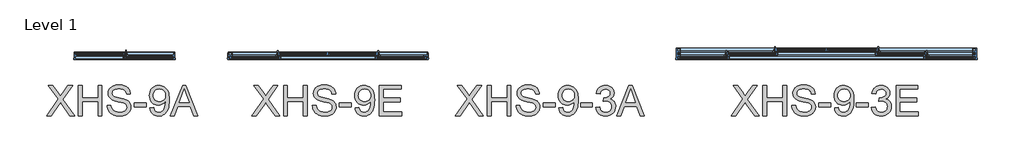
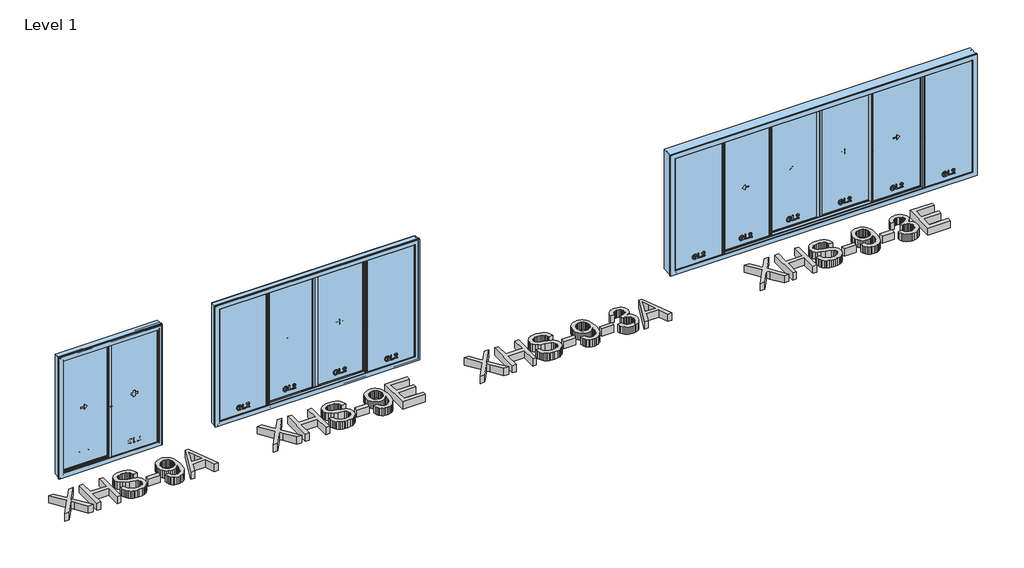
# One storey, incomplete: 4 proxies, 3 windows.
"""IFC4 building model written with IfcOpenShell, lengths in millimetres."""

from ifc_helpers import new_model, si_unit, origin, origin_with_axes, place, context, project, spatial, polyline, outline, extrude, transform, mapped, element, save
from components import window_fc74b0f0, window_bf3bb52b, window_81968e4f, window_7b3e0aa8, window_d65d8cc0

model = new_model("IFC4")

# Units and contexts
model_context = context("Model", 3, world=origin())
ifc_project = project(units=[si_unit("LENGTHUNIT", "METRE", prefix="MILLI")], contexts=[model_context])

# Site, building, storey
site = spatial("IfcSite", under=ifc_project)
building = spatial("IfcBuilding", under=site)
storey = spatial("IfcBuildingStorey", under=building, Name="Level 1", Elevation=0.0)

# Proxies
placement = place(None, origin())
element("IfcBuildingElementProxy", 1, Name="600mm Arial", ObjectType="600mm Arial", at=placement, inside=storey, context=model_context, shape_type="SweptSolid", body=[
    extrude(outline(polyline([(-8424.8652122, -2254.2839532), (-8192.6580968, -1925.838908), (-8387.1940959, -1651.5460923), (-8296.9894307, -1651.5460923), (-8187.3605961, -1806.0565303), (-8161.1306099, -1845.08881), (-8150.4252438, -1866.2420247), (-8107.1623212, -1804.7321551), (-7998.710709, -1651.5460923), (-7906.887363, -1651.5460923), (-8101.5705148, -1926.8689775), (-7869.2162467, -2254.2839532), (-7959.5680647, -2254.2839532), (-8114.5199611, -2036.0563537), (-8146.7464238, -1990.8804447), (-8181.9159426, -2040.4709377), (-8333.0418662, -2254.2839532), (-8424.8652122, -2254.2839532)])), origin_with_axes(), (0.0, 0.0, 1.0), 150.0),
    extrude(outline(polyline([(-7793.8740141, -2254.2839532), (-7793.8740141, -1651.5460923), (-7718.5317815, -1651.5460923), (-7718.5317815, -1896.4083483), (-7398.3272929, -1896.4083483), (-7398.3272929, -1651.5460923), (-7322.9850602, -1651.5460923), (-7322.9850602, -2254.2839532), (-7398.3272929, -2254.2839532), (-7398.3272929, -1971.750581), (-7718.5317815, -1971.750581), (-7718.5317815, -2254.2839532), (-7793.8740141, -2254.2839532)])), origin_with_axes(), (0.0, 0.0, 1.0), 150.0),
    extrude(outline(polyline([(-7219.3894904, -2047.0928136), (-7144.0472578, -2047.0928136), (-7135.4020309, -2088.9026023), (-7119.7670461, -2122.5086226), (-7095.3764698, -2149.1800672), (-7060.4644685, -2170.1861292), (-7017.7901571, -2183.8161571), (-6970.1126505, -2188.3594997), (-6928.1373148, -2184.9198031), (-6891.3859035, -2174.6007131), (-6861.605856, -2158.2667525), (-6840.5446118, -2136.782444), (-6828.0182298, -2112.1159562), (-6823.8427692, -2086.2354579), (-6826.9697662, -2061.0171471), (-6836.350757, -2039.2201389), (-6855.4070444, -2020.623704), (-6887.5599308, -2005.0071133), (-6997.2623417, -1976.2387413), (-7069.2752423, -1957.200848), (-7115.3524622, -1939.0826598), (-7152.8580316, -1913.7355903), (-7179.4375057, -1883.0174437), (-7195.2748256, -1847.5904076), (-7200.5539323, -1808.1166695), (-7198.9214559, -1785.6804663), (-7194.0240268, -1763.9892242), (-7185.8616451, -1743.0429431), (-7174.4343106, -1722.841623), (-7159.8707821, -1704.2084), (-7142.2998183, -1687.9664099), (-7121.7214192, -1674.1156528), (-7098.1355848, -1662.6561286), (-7045.1237893, -1647.2602671), (-6986.4466111, -1642.1283133), (-6922.8766023, -1647.4993904), (-6867.2528446, -1663.6126218), (-6842.9174506, -1675.6147719), (-6821.5619008, -1690.1369136), (-6803.1861952, -1707.1790471), (-6787.7903337, -1726.7411722), (-6775.493878, -1748.2530718), (-6766.4163897, -1771.144529), (-6760.557869, -1795.4155436), (-6757.9183157, -1821.0661157), (-6833.2605483, -1821.0661157), (-6838.3005316, -1797.0250273), (-6847.0929113, -1776.1109359), (-6859.6376873, -1758.3238415), (-6875.9348597, -1743.6637439), (-6896.2879311, -1732.2042198), (-6921.0004041, -1724.0188454), (-6950.0722788, -1719.1076208), (-6983.5035551, -1717.4705459), (-7018.0016892, -1719.0892267), (-7047.4782341, -1723.945269), (-7071.9331897, -1732.0386729), (-7091.3665561, -1743.3694383), (-7106.1738064, -1756.9902692), (-7116.7504138, -1771.9538694), (-7123.0963782, -1788.2602388), (-7125.2116996, -1805.9093775), (-7123.7125805, -1821.0937069), (-7119.2152231, -1834.8616905), (-7111.7196275, -1847.2133285), (-7101.2257936, -1858.1486208), (-7084.707892, -1868.504499), (-7058.6986349, -1878.9707418), (-6978.2060544, -1900.2343211), (-6895.1382999, -1920.4310426), (-6844.8856193, -1938.0525902), (-6801.9353964, -1965.3862224), (-6785.3301228, -1981.4534686), (-6771.9714079, -1999.1210014), (-6761.7029017, -2018.2968504), (-6754.3682544, -2038.8890451), (-6748.5005366, -2084.3224715), (-6750.1881952, -2107.8899118), (-6755.2511712, -2130.7675734), (-6763.6894645, -2152.9554562), (-6775.503075, -2174.4535603), (-6790.4850693, -2194.4295526), (-6808.4285136, -2212.0511002), (-6829.333408, -2227.318203), (-6853.1997524, -2240.230861), (-6879.3331696, -2250.4993672), (-6907.0392824, -2257.8340145), (-6967.1695945, -2263.7017323), (-7005.709832, -2262.1198397), (-7040.9851168, -2257.374162), (-7072.995449, -2249.4646991), (-7101.7408284, -2238.3914511), (-7127.395999, -2224.1360237), (-7150.1357048, -2206.6800231), (-7169.9599458, -2186.023449), (-7186.868722, -2162.1663017), (-7200.4895529, -2135.8811331), (-7210.4499579, -2107.9404956), (-7216.7499371, -2078.3443891), (-7219.3894904, -2047.0928136)])), origin_with_axes(), (0.0, 0.0, 1.0), 150.0),
    extrude(outline(polyline([(-6682.576083, -2075.3461508), (-6682.576083, -2000.0039182), (-6447.1316061, -2000.0039182), (-6447.1316061, -2075.3461508), (-6682.576083, -2075.3461508)])), origin_with_axes(), (0.0, 0.0, 1.0), 150.0),
    extrude(outline(polyline([(-6371.7893735, -2103.599488), (-6296.4471409, -2094.1817089), (-6283.5712711, -2136.9479909), (-6274.0983097, -2153.2129736), (-6262.6019974, -2166.0658508), (-6249.2110927, -2175.8193222), (-6234.0543545, -2182.7860875), (-6198.4433774, -2188.3594997), (-6166.4928261, -2184.7726503), (-6137.4485426, -2174.0121019), (-6113.3154837, -2157.255077), (-6096.0986063, -2135.678798), (-6083.0571896, -2107.3150962), (-6071.4505127, -2070.1958029), (-6063.2835324, -2027.5950678), (-6060.5612056, -1982.7870408), (-6061.002664, -1968.071761), (-6087.1038916, -1999.9303418), (-6121.2617348, -2025.1670467), (-6161.0113844, -2041.6113718), (-6203.8880309, -2047.0928136), (-6239.6783505, -2043.7450874), (-6272.5899935, -2033.7019089), (-6302.6229599, -2016.9632782), (-6329.7772497, -1993.5291951), (-6352.2778322, -1964.6228673), (-6368.3496769, -1931.4675025), (-6377.9927837, -1894.0631006), (-6381.2071526, -1852.4096617), (-6377.8364338, -1809.3674683), (-6367.7242775, -1770.7398588), (-6350.8706836, -1736.5268332), (-6327.2756521, -1706.7283916), (-6298.6038491, -1682.5861357), (-6266.5199406, -1665.3416672), (-6231.0239266, -1654.9949861), (-6192.1158071, -1651.5460923), (-6163.3888218, -1653.514261), (-6135.9218323, -1659.418767), (-6109.7148387, -1669.2596104), (-6084.7678409, -1683.0367911), (-6061.9131719, -1700.4560036), (-6041.9831648, -1721.2229422), (-6024.9778196, -1745.337607), (-6010.8971363, -1772.799998), (-5999.8560779, -1805.1920076), (-5991.9696076, -1844.0955286), (-5987.2377254, -1889.5105609), (-5985.6604314, -1941.4371045), (-5987.2331269, -1995.9710118), (-5991.9512135, -2044.6463983), (-5999.8146911, -2087.463264), (-6010.8235599, -2124.421609), (-6024.9364329, -2156.422744), (-6042.1119235, -2184.3679801), (-6062.3500318, -2208.2573171), (-6085.6507577, -2228.0907552), (-6111.5450516, -2243.6705577), (-6139.5638641, -2254.798988), (-6169.707195, -2261.4760463), (-6201.9750445, -2263.7017323), (-6235.8109911, -2261.0759746), (-6266.3911819, -2253.1987014), (-6293.7156171, -2240.0699127), (-6317.7842966, -2221.6896085), (-6337.9902152, -2198.5544295), (-6353.7263676, -2171.1610164), (-6364.9927537, -2139.5093693), (-6371.7893735, -2103.599488)]), holes=[polyline([(-6061.002664, -1850.6438281), (-6063.035212, -1823.6412897), (-6069.1328561, -1799.5818072), (-6079.2955962, -1778.4653807), (-6093.5234324, -1760.2920101), (-6111.1173888, -1745.6778979), (-6131.3784897, -1735.2392463), (-6154.306735, -1728.9760553), (-6179.9021248, -1726.888325), (-6206.3160521, -1729.1370037), (-6230.2283818, -1735.8830397), (-6251.6391139, -1747.1264332), (-6270.5482484, -1762.8671841), (-6285.9992922, -1782.1855874), (-6297.0357521, -1804.161938), (-6303.657628, -1828.7962362), (-6305.86492, -1856.0884817), (-6303.7771897, -1880.5664299), (-6297.5139987, -1902.6439482), (-6287.0753471, -1922.3210364), (-6272.4612348, -1939.5976946), (-6254.2786672, -1953.6645824), (-6233.1346495, -1963.7123594), (-6209.0291818, -1969.7410256), (-6181.962264, -1971.750581), (-6156.7209606, -1969.7410256), (-6133.8249049, -1963.7123594), (-6113.274097, -1953.6645824), (-6095.0685367, -1939.5976946), (-6080.1647174, -1921.9807455), (-6069.5191322, -1901.2827848), (-6063.131781, -1877.5038123), (-6061.002664, -1850.6438281)])]), origin_with_axes(), (0.0, 0.0, 1.0), 150.0),
    extrude(outline(polyline([(-5961.5273725, -2254.2839532), (-5720.9325477, -1651.5460923), (-5656.7739277, -1651.5460923), (-5416.3262556, -2254.2839532), (-5495.9359194, -2254.2839532), (-5564.8034289, -2065.9283717), (-5813.197352, -2065.9283717), (-5882.0648615, -2254.2839532), (-5961.5273725, -2254.2839532)]), holes=[polyline([(-5785.532626, -1990.5861391), (-5592.3210021, -1990.5861391), (-5646.7675374, -1842.4032714), (-5689.0003905, -1726.888325), (-5726.524354, -1829.4538252), (-5785.532626, -1990.5861391)])]), origin_with_axes(), (0.0, 0.0, 1.0), 150.0),
])
element("IfcBuildingElementProxy", 2, Name="600mm Arial", ObjectType="600mm Arial", at=placement, inside=storey, context=model_context, shape_type="SweptSolid", body=[
    extrude(outline(polyline([(-4344.8652122, -2254.2839532), (-4112.6580968, -1925.838908), (-4307.1940959, -1651.5460923), (-4216.9894307, -1651.5460923), (-4107.3605961, -1806.0565303), (-4081.1306099, -1845.08881), (-4070.4252438, -1866.2420247), (-4027.1623212, -1804.7321551), (-3918.710709, -1651.5460923), (-3826.887363, -1651.5460923), (-4021.5705148, -1926.8689775), (-3789.2162467, -2254.2839532), (-3879.5680647, -2254.2839532), (-4034.5199611, -2036.0563537), (-4066.7464238, -1990.8804447), (-4101.9159426, -2040.4709377), (-4253.0418662, -2254.2839532), (-4344.8652122, -2254.2839532)])), origin_with_axes(), (0.0, 0.0, 1.0), 150.0),
    extrude(outline(polyline([(-3713.8740141, -2254.2839532), (-3713.8740141, -1651.5460923), (-3638.5317815, -1651.5460923), (-3638.5317815, -1896.4083483), (-3318.3272929, -1896.4083483), (-3318.3272929, -1651.5460923), (-3242.9850602, -1651.5460923), (-3242.9850602, -2254.2839532), (-3318.3272929, -2254.2839532), (-3318.3272929, -1971.750581), (-3638.5317815, -1971.750581), (-3638.5317815, -2254.2839532), (-3713.8740141, -2254.2839532)])), origin_with_axes(), (0.0, 0.0, 1.0), 150.0),
    extrude(outline(polyline([(-3139.3894904, -2047.0928136), (-3064.0472578, -2047.0928136), (-3055.4020309, -2088.9026023), (-3039.7670461, -2122.5086226), (-3015.3764698, -2149.1800672), (-2980.4644685, -2170.1861292), (-2937.7901571, -2183.8161571), (-2890.1126505, -2188.3594997), (-2848.1373148, -2184.9198031), (-2811.3859035, -2174.6007131), (-2781.605856, -2158.2667525), (-2760.5446118, -2136.782444), (-2748.0182298, -2112.1159562), (-2743.8427692, -2086.2354579), (-2746.9697662, -2061.0171471), (-2756.350757, -2039.2201389), (-2775.4070444, -2020.623704), (-2807.5599308, -2005.0071133), (-2917.2623417, -1976.2387413), (-2989.2752423, -1957.200848), (-3035.3524622, -1939.0826598), (-3072.8580316, -1913.7355903), (-3099.4375057, -1883.0174437), (-3115.2748256, -1847.5904076), (-3120.5539323, -1808.1166695), (-3118.9214559, -1785.6804663), (-3114.0240268, -1763.9892242), (-3105.8616451, -1743.0429431), (-3094.4343106, -1722.841623), (-3079.8707821, -1704.2084), (-3062.2998183, -1687.9664099), (-3041.7214192, -1674.1156528), (-3018.1355848, -1662.6561286), (-2965.1237893, -1647.2602671), (-2906.4466111, -1642.1283133), (-2842.8766023, -1647.4993904), (-2787.2528446, -1663.6126218), (-2762.9174506, -1675.6147719), (-2741.5619008, -1690.1369136), (-2723.1861952, -1707.1790471), (-2707.7903337, -1726.7411722), (-2695.493878, -1748.2530718), (-2686.4163897, -1771.144529), (-2680.557869, -1795.4155436), (-2677.9183157, -1821.0661157), (-2753.2605483, -1821.0661157), (-2758.3005316, -1797.0250273), (-2767.0929113, -1776.1109359), (-2779.6376873, -1758.3238415), (-2795.9348597, -1743.6637439), (-2816.2879311, -1732.2042198), (-2841.0004041, -1724.0188454), (-2870.0722788, -1719.1076208), (-2903.5035551, -1717.4705459), (-2938.0016892, -1719.0892267), (-2967.4782341, -1723.945269), (-2991.9331897, -1732.0386729), (-3011.3665561, -1743.3694383), (-3026.1738064, -1756.9902692), (-3036.7504138, -1771.9538694), (-3043.0963782, -1788.2602388), (-3045.2116996, -1805.9093775), (-3043.7125805, -1821.0937069), (-3039.2152231, -1834.8616905), (-3031.7196275, -1847.2133285), (-3021.2257936, -1858.1486208), (-3004.707892, -1868.504499), (-2978.6986349, -1878.9707418), (-2898.2060544, -1900.2343211), (-2815.1382999, -1920.4310426), (-2764.8856193, -1938.0525902), (-2721.9353964, -1965.3862224), (-2705.3301228, -1981.4534686), (-2691.9714079, -1999.1210014), (-2681.7029017, -2018.2968504), (-2674.3682544, -2038.8890451), (-2668.5005366, -2084.3224715), (-2670.1881952, -2107.8899118), (-2675.2511712, -2130.7675734), (-2683.6894645, -2152.9554562), (-2695.503075, -2174.4535603), (-2710.4850693, -2194.4295526), (-2728.4285136, -2212.0511002), (-2749.333408, -2227.318203), (-2773.1997524, -2240.230861), (-2799.3331696, -2250.4993672), (-2827.0392824, -2257.8340145), (-2887.1695945, -2263.7017323), (-2925.709832, -2262.1198397), (-2960.9851168, -2257.374162), (-2992.995449, -2249.4646991), (-3021.7408284, -2238.3914511), (-3047.395999, -2224.1360237), (-3070.1357048, -2206.6800231), (-3089.9599458, -2186.023449), (-3106.868722, -2162.1663017), (-3120.4895529, -2135.8811331), (-3130.4499579, -2107.9404956), (-3136.7499371, -2078.3443891), (-3139.3894904, -2047.0928136)])), origin_with_axes(), (0.0, 0.0, 1.0), 150.0),
    extrude(outline(polyline([(-2602.576083, -2075.3461508), (-2602.576083, -2000.0039182), (-2367.1316061, -2000.0039182), (-2367.1316061, -2075.3461508), (-2602.576083, -2075.3461508)])), origin_with_axes(), (0.0, 0.0, 1.0), 150.0),
    extrude(outline(polyline([(-2291.7893735, -2103.599488), (-2216.4471409, -2094.1817089), (-2203.5712711, -2136.9479909), (-2194.0983097, -2153.2129736), (-2182.6019974, -2166.0658508), (-2169.2110927, -2175.8193222), (-2154.0543545, -2182.7860875), (-2118.4433774, -2188.3594997), (-2086.4928261, -2184.7726503), (-2057.4485426, -2174.0121019), (-2033.3154837, -2157.255077), (-2016.0986063, -2135.678798), (-2003.0571896, -2107.3150962), (-1991.4505127, -2070.1958029), (-1983.2835324, -2027.5950678), (-1980.5612056, -1982.7870408), (-1981.002664, -1968.071761), (-2007.1038916, -1999.9303418), (-2041.2617348, -2025.1670467), (-2081.0113844, -2041.6113718), (-2123.8880309, -2047.0928136), (-2159.6783505, -2043.7450874), (-2192.5899935, -2033.7019089), (-2222.6229599, -2016.9632782), (-2249.7772497, -1993.5291951), (-2272.2778322, -1964.6228673), (-2288.3496769, -1931.4675025), (-2297.9927837, -1894.0631006), (-2301.2071526, -1852.4096617), (-2297.8364338, -1809.3674683), (-2287.7242775, -1770.7398588), (-2270.8706836, -1736.5268332), (-2247.2756521, -1706.7283916), (-2218.6038491, -1682.5861357), (-2186.5199406, -1665.3416672), (-2151.0239266, -1654.9949861), (-2112.1158071, -1651.5460923), (-2083.3888218, -1653.514261), (-2055.9218323, -1659.418767), (-2029.7148387, -1669.2596104), (-2004.7678409, -1683.0367911), (-1981.9131719, -1700.4560036), (-1961.9831648, -1721.2229422), (-1944.9778196, -1745.337607), (-1930.8971363, -1772.799998), (-1919.8560779, -1805.1920076), (-1911.9696076, -1844.0955286), (-1907.2377254, -1889.5105609), (-1905.6604314, -1941.4371045), (-1907.2331269, -1995.9710118), (-1911.9512135, -2044.6463983), (-1919.8146911, -2087.463264), (-1930.8235599, -2124.421609), (-1944.9364329, -2156.422744), (-1962.1119235, -2184.3679801), (-1982.3500318, -2208.2573171), (-2005.6507577, -2228.0907552), (-2031.5450516, -2243.6705577), (-2059.5638641, -2254.798988), (-2089.707195, -2261.4760463), (-2121.9750445, -2263.7017323), (-2155.8109911, -2261.0759746), (-2186.3911819, -2253.1987014), (-2213.7156171, -2240.0699127), (-2237.7842966, -2221.6896085), (-2257.9902152, -2198.5544295), (-2273.7263676, -2171.1610164), (-2284.9927537, -2139.5093693), (-2291.7893735, -2103.599488)]), holes=[polyline([(-1981.002664, -1850.6438281), (-1983.035212, -1823.6412897), (-1989.1328561, -1799.5818072), (-1999.2955962, -1778.4653807), (-2013.5234324, -1760.2920101), (-2031.1173888, -1745.6778979), (-2051.3784897, -1735.2392463), (-2074.306735, -1728.9760553), (-2099.9021248, -1726.888325), (-2126.3160521, -1729.1370037), (-2150.2283818, -1735.8830397), (-2171.6391139, -1747.1264332), (-2190.5482484, -1762.8671841), (-2205.9992922, -1782.1855874), (-2217.0357521, -1804.161938), (-2223.657628, -1828.7962362), (-2225.86492, -1856.0884817), (-2223.7771897, -1880.5664299), (-2217.5139987, -1902.6439482), (-2207.0753471, -1922.3210364), (-2192.4612348, -1939.5976946), (-2174.2786672, -1953.6645824), (-2153.1346495, -1963.7123594), (-2129.0291818, -1969.7410256), (-2101.962264, -1971.750581), (-2076.7209606, -1969.7410256), (-2053.8249049, -1963.7123594), (-2033.274097, -1953.6645824), (-2015.0685367, -1939.5976946), (-2000.1647174, -1921.9807455), (-1989.5191322, -1901.2827848), (-1983.131781, -1877.5038123), (-1981.002664, -1850.6438281)])]), origin_with_axes(), (0.0, 0.0, 1.0), 150.0),
    extrude(outline(polyline([(-1811.4826406, -2254.2839532), (-1811.4826406, -1651.5460923), (-1378.2648031, -1651.5460923), (-1378.2648031, -1726.888325), (-1736.140408, -1726.888325), (-1736.140408, -1905.8261274), (-1397.1003613, -1905.8261274), (-1397.1003613, -1981.16836), (-1736.140408, -1981.16836), (-1736.140408, -2178.9417206), (-1368.847024, -2178.9417206), (-1368.847024, -2254.2839532), (-1811.4826406, -2254.2839532)])), origin_with_axes(), (0.0, 0.0, 1.0), 150.0),
])
element("IfcBuildingElementProxy", 3, Name="600mm Arial", ObjectType="600mm Arial", at=placement, inside=storey, context=model_context, shape_type="SweptSolid", body=[
    extrude(outline(polyline([(-296.8674857, -2254.2839532), (-64.6603704, -1925.838908), (-259.1963694, -1651.5460923), (-168.9917042, -1651.5460923), (-59.3628696, -1806.0565303), (-33.1328834, -1845.08881), (-22.4275173, -1866.2420247), (20.8354053, -1804.7321551), (129.2870175, -1651.5460923), (221.1103635, -1651.5460923), (26.4272116, -1926.8689775), (258.7814798, -2254.2839532), (168.4296618, -2254.2839532), (13.4777654, -2036.0563537), (-18.7486974, -1990.8804447), (-53.9182161, -2040.4709377), (-205.0441397, -2254.2839532), (-296.8674857, -2254.2839532)])), origin_with_axes(), (0.0, 0.0, 1.0), 150.0),
    extrude(outline(polyline([(334.1237124, -2254.2839532), (334.1237124, -1651.5460923), (409.465945, -1651.5460923), (409.465945, -1896.4083483), (729.6704336, -1896.4083483), (729.6704336, -1651.5460923), (805.0126662, -1651.5460923), (805.0126662, -2254.2839532), (729.6704336, -2254.2839532), (729.6704336, -1971.750581), (409.465945, -1971.750581), (409.465945, -2254.2839532), (334.1237124, -2254.2839532)])), origin_with_axes(), (0.0, 0.0, 1.0), 150.0),
    extrude(outline(polyline([(908.6082361, -2047.0928136), (983.9504687, -2047.0928136), (992.5956956, -2088.9026023), (1008.2306804, -2122.5086226), (1032.6212566, -2149.1800672), (1067.533258, -2170.1861292), (1110.2075694, -2183.8161571), (1157.885076, -2188.3594997), (1199.8604117, -2184.9198031), (1236.611823, -2174.6007131), (1266.3918705, -2158.2667525), (1287.4531147, -2136.782444), (1299.9794966, -2112.1159562), (1304.1549573, -2086.2354579), (1301.0279603, -2061.0171471), (1291.6469694, -2039.2201389), (1272.5906821, -2020.623704), (1240.4377957, -2005.0071133), (1130.7353848, -1976.2387413), (1058.7224842, -1957.200848), (1012.6452643, -1939.0826598), (975.1396949, -1913.7355903), (948.5602207, -1883.0174437), (932.7229009, -1847.5904076), (927.4437942, -1808.1166695), (929.0762706, -1785.6804663), (933.9736996, -1763.9892242), (942.1360814, -1743.0429431), (953.5634159, -1722.841623), (968.1269444, -1704.2084), (985.6979082, -1687.9664099), (1006.2763073, -1674.1156528), (1029.8621417, -1662.6561286), (1082.8739372, -1647.2602671), (1141.5511154, -1642.1283133), (1205.1211242, -1647.4993904), (1260.7448819, -1663.6126218), (1285.0802758, -1675.6147719), (1306.4358257, -1690.1369136), (1324.8115313, -1707.1790471), (1340.2073928, -1726.7411722), (1352.5038485, -1748.2530718), (1361.5813367, -1771.144529), (1367.4398575, -1795.4155436), (1370.0794108, -1821.0661157), (1294.7371782, -1821.0661157), (1289.6971949, -1797.0250273), (1280.9048152, -1776.1109359), (1268.3600392, -1758.3238415), (1252.0628668, -1743.6637439), (1231.7097954, -1732.2042198), (1206.9973224, -1724.0188454), (1177.9254477, -1719.1076208), (1144.4941714, -1717.4705459), (1109.9960373, -1719.0892267), (1080.5194924, -1723.945269), (1056.0645368, -1732.0386729), (1036.6311704, -1743.3694383), (1021.8239201, -1756.9902692), (1011.2473127, -1771.9538694), (1004.9013483, -1788.2602388), (1002.7860268, -1805.9093775), (1004.285146, -1821.0937069), (1008.7825034, -1834.8616905), (1016.278099, -1847.2133285), (1026.7719329, -1858.1486208), (1043.2898345, -1868.504499), (1069.2990916, -1878.9707418), (1149.7916721, -1900.2343211), (1232.8594266, -1920.4310426), (1283.1121072, -1938.0525902), (1326.0623301, -1965.3862224), (1342.6676037, -1981.4534686), (1356.0263186, -1999.1210014), (1366.2948248, -2018.2968504), (1373.6294721, -2038.8890451), (1379.4971899, -2084.3224715), (1377.8095312, -2107.8899118), (1372.7465553, -2130.7675734), (1364.308262, -2152.9554562), (1352.4946514, -2174.4535603), (1337.5126572, -2194.4295526), (1319.5692129, -2212.0511002), (1298.6643185, -2227.318203), (1274.7979741, -2240.230861), (1248.6645568, -2250.4993672), (1220.9584441, -2257.8340145), (1160.828132, -2263.7017323), (1122.2878944, -2262.1198397), (1087.0126096, -2257.374162), (1055.0022775, -2249.4646991), (1026.2568981, -2238.3914511), (1000.6017275, -2224.1360237), (977.8620217, -2206.6800231), (958.0377806, -2186.023449), (941.1290044, -2162.1663017), (927.5081736, -2135.8811331), (917.5477686, -2107.9404956), (911.2477894, -2078.3443891), (908.6082361, -2047.0928136)])), origin_with_axes(), (0.0, 0.0, 1.0), 150.0),
    extrude(outline(polyline([(1445.4216434, -2075.3461508), (1445.4216434, -2000.0039182), (1680.8661203, -2000.0039182), (1680.8661203, -2075.3461508), (1445.4216434, -2075.3461508)])), origin_with_axes(), (0.0, 0.0, 1.0), 150.0),
    extrude(outline(polyline([(1756.208353, -2103.599488), (1831.5505856, -2094.1817089), (1844.4264554, -2136.9479909), (1853.8994168, -2153.2129736), (1865.3957291, -2166.0658508), (1878.7866337, -2175.8193222), (1893.943372, -2182.7860875), (1929.5543491, -2188.3594997), (1961.5049004, -2184.7726503), (1990.5491839, -2174.0121019), (2014.6822428, -2157.255077), (2031.8991201, -2135.678798), (2044.9405369, -2107.3150962), (2056.5472138, -2070.1958029), (2064.7141941, -2027.5950678), (2067.4365209, -1982.7870408), (2066.9950625, -1968.071761), (2040.8938349, -1999.9303418), (2006.7359917, -2025.1670467), (1966.9863421, -2041.6113718), (1924.1096956, -2047.0928136), (1888.3193759, -2043.7450874), (1855.407733, -2033.7019089), (1825.3747666, -2016.9632782), (1798.2204768, -1993.5291951), (1775.7198943, -1964.6228673), (1759.6480496, -1931.4675025), (1750.0049428, -1894.0631006), (1746.7905739, -1852.4096617), (1750.1612927, -1809.3674683), (1760.273449, -1770.7398588), (1777.1270429, -1736.5268332), (1800.7220744, -1706.7283916), (1829.3938774, -1682.5861357), (1861.4777859, -1665.3416672), (1896.9737999, -1654.9949861), (1935.8819194, -1651.5460923), (1964.6089047, -1653.514261), (1992.0758942, -1659.418767), (2018.2828878, -1669.2596104), (2043.2298856, -1683.0367911), (2066.0845545, -1700.4560036), (2086.0145616, -1721.2229422), (2103.0199069, -1745.337607), (2117.1005902, -1772.799998), (2128.1416486, -1805.1920076), (2136.0281189, -1844.0955286), (2140.760001, -1889.5105609), (2142.3372951, -1941.4371045), (2140.7645996, -1995.9710118), (2136.046513, -2044.6463983), (2128.1830353, -2087.463264), (2117.1741666, -2124.421609), (2103.0612936, -2156.422744), (2085.8858029, -2184.3679801), (2065.6476947, -2208.2573171), (2042.3469688, -2228.0907552), (2016.4526749, -2243.6705577), (1988.4338624, -2254.798988), (1958.2905314, -2261.4760463), (1926.0226819, -2263.7017323), (1892.1867354, -2261.0759746), (1861.6065446, -2253.1987014), (1834.2821094, -2240.0699127), (1810.2134298, -2221.6896085), (1790.0075113, -2198.5544295), (1774.2713589, -2171.1610164), (1763.0049728, -2139.5093693), (1756.208353, -2103.599488)]), holes=[polyline([(2066.9950625, -1850.6438281), (2064.9625145, -1823.6412897), (2058.8648704, -1799.5818072), (2048.7021303, -1778.4653807), (2034.4742941, -1760.2920101), (2016.8803377, -1745.6778979), (1996.6192368, -1735.2392463), (1973.6909915, -1728.9760553), (1948.0956016, -1726.888325), (1921.6816744, -1729.1370037), (1897.7693447, -1735.8830397), (1876.3586126, -1747.1264332), (1857.449478, -1762.8671841), (1841.9984342, -1782.1855874), (1830.9619744, -1804.161938), (1824.3400985, -1828.7962362), (1822.1328065, -1856.0884817), (1824.2205368, -1880.5664299), (1830.4837278, -1902.6439482), (1840.9223794, -1922.3210364), (1855.5364917, -1939.5976946), (1873.7190593, -1953.6645824), (1894.8630769, -1963.7123594), (1918.9685447, -1969.7410256), (1946.0354625, -1971.750581), (1971.2767659, -1969.7410256), (1994.1728215, -1963.7123594), (2014.7236295, -1953.6645824), (2032.9291897, -1939.5976946), (2047.8330091, -1921.9807455), (2058.4785943, -1901.2827848), (2064.8659454, -1877.5038123), (2066.9950625, -1850.6438281)])]), origin_with_axes(), (0.0, 0.0, 1.0), 150.0),
    extrude(outline(polyline([(2189.4261905, -2075.3461508), (2189.4261905, -2000.0039182), (2424.8706674, -2000.0039182), (2424.8706674, -2075.3461508), (2189.4261905, -2075.3461508)])), origin_with_axes(), (0.0, 0.0, 1.0), 150.0),
    extrude(outline(polyline([(2490.7951209, -2094.1817089), (2566.1373535, -2084.7639299), (2583.004743, -2132.1103426), (2594.3768952, -2150.0169988), (2607.708019, -2164.079288), (2623.3016171, -2174.7018806), (2641.4611921, -2182.2894468), (2662.186744, -2186.8419865), (2685.4782728, -2188.3594997), (2712.7751168, -2186.2717694), (2737.1289049, -2180.0085784), (2758.539637, -2169.5699268), (2777.0073132, -2154.9558145), (2791.8789428, -2137.2606906), (2802.5015354, -2117.5790038), (2808.875091, -2095.9107543), (2810.9996095, -2072.255942), (2808.8934851, -2049.7277684), (2802.5751118, -2029.2321427), (2792.0444897, -2010.7690651), (2777.3016188, -1994.3385355), (2759.3121892, -1980.8510618), (2739.0418913, -1971.2171521), (2716.490725, -1965.4368062), (2691.6586903, -1963.5100243), (2667.8567252, -1965.5701634), (2638.8308358, -1971.750581), (2647.2185453, -1896.4083483), (2659.2850747, -1897.2912651), (2704.4241955, -1891.8833998), (2744.7808504, -1875.6598038), (2761.3907225, -1863.3909393), (2773.2549168, -1848.215807), (2780.3734334, -1830.1344069), (2782.7462723, -1809.1467391), (2781.026424, -1792.1092042), (2775.866879, -1776.6075766), (2767.2676374, -1762.6418564), (2755.2286991, -1750.2120435), (2740.4766311, -1740.0079166), (2723.7380003, -1732.7192546), (2684.3010504, -1726.888325), (2663.6444764, -1728.3598529), (2644.7905241, -1732.7744369), (2627.7391936, -1740.1320768), (2612.4904849, -1750.4327727), (2599.4214771, -1763.6765245), (2588.909249, -1779.8633323), (2580.9538009, -1798.993196), (2575.5551326, -1821.0661157), (2500.2129, -1811.6483367), (2509.1432354, -1775.6786746), (2522.3961843, -1743.9948377), (2539.9717466, -1716.5968261), (2561.8699224, -1693.4846398), (2587.4009329, -1675.1365253), (2615.8749993, -1662.0307292), (2647.2921217, -1654.1672516), (2681.6523, -1651.5460923), (2729.0171069, -1656.7148344), (2772.5191528, -1672.2210605), (2809.1969878, -1696.6852132), (2836.0891616, -1728.7277349), (2852.5886691, -1765.6446932), (2858.0885049, -1804.7321551), (2852.8645806, -1841.1524727), (2837.1928076, -1874.1882758), (2811.2939151, -1902.3312485), (2775.3886324, -1924.0730744), (2800.4965786, -1931.927355), (2822.5511042, -1943.1293617), (2841.5522092, -1957.6790946), (2857.4998937, -1975.5765537), (2870.1182462, -1996.3802805), (2879.131355, -2019.6488167), (2884.5392204, -2045.3821623), (2886.3418421, -2073.5803172), (2882.7365986, -2111.8032565), (2871.9208679, -2147.0095635), (2853.8946502, -2179.199238), (2828.6579453, -2208.3722802), (2797.9122075, -2232.5789155), (2763.3588912, -2249.8693693), (2724.9979961, -2260.2436416), (2682.8295224, -2263.7017323), (2644.7169477, -2260.7494793), (2609.9888874, -2251.8927203), (2578.6453414, -2237.1314552), (2550.6863097, -2216.4656841), (2527.2430296, -2191.1094176), (2509.4467381, -2162.2766663), (2497.2974352, -2129.96743), (2490.7951209, -2094.1817089)])), origin_with_axes(), (0.0, 0.0, 1.0), 150.0),
    extrude(outline(polyline([(2910.474901, -2254.2839532), (3151.0697259, -1651.5460923), (3215.2283458, -1651.5460923), (3455.6760179, -2254.2839532), (3376.0663541, -2254.2839532), (3307.1988446, -2065.9283717), (3058.8049215, -2065.9283717), (2989.937412, -2254.2839532), (2910.474901, -2254.2839532)]), holes=[polyline([(3086.4696475, -1990.5861391), (3279.6812714, -1990.5861391), (3225.2347361, -1842.4032714), (3183.0018831, -1726.888325), (3145.4779195, -1829.4538252), (3086.4696475, -1990.5861391)])]), origin_with_axes(), (0.0, 0.0, 1.0), 150.0),
])
element("IfcBuildingElementProxy", 4, Name="600mm Arial", ObjectType="600mm Arial", at=placement, inside=storey, context=model_context, shape_type="SweptSolid", body=[
    extrude(outline(polyline([(5183.1325143, -2254.2839532), (5415.3396296, -1925.838908), (5220.8036306, -1651.5460923), (5311.0082958, -1651.5460923), (5420.6371304, -1806.0565303), (5446.8671166, -1845.08881), (5457.5724827, -1866.2420247), (5500.8354053, -1804.7321551), (5609.2870175, -1651.5460923), (5701.1103635, -1651.5460923), (5506.4272116, -1926.8689775), (5738.7814798, -2254.2839532), (5648.4296618, -2254.2839532), (5493.4777654, -2036.0563537), (5461.2513026, -1990.8804447), (5426.0817839, -2040.4709377), (5274.9558603, -2254.2839532), (5183.1325143, -2254.2839532)])), origin_with_axes(), (0.0, 0.0, 1.0), 150.0),
    extrude(outline(polyline([(5814.1237124, -2254.2839532), (5814.1237124, -1651.5460923), (5889.465945, -1651.5460923), (5889.465945, -1896.4083483), (6209.6704336, -1896.4083483), (6209.6704336, -1651.5460923), (6285.0126662, -1651.5460923), (6285.0126662, -2254.2839532), (6209.6704336, -2254.2839532), (6209.6704336, -1971.750581), (5889.465945, -1971.750581), (5889.465945, -2254.2839532), (5814.1237124, -2254.2839532)])), origin_with_axes(), (0.0, 0.0, 1.0), 150.0),
    extrude(outline(polyline([(6388.6082361, -2047.0928136), (6463.9504687, -2047.0928136), (6472.5956956, -2088.9026023), (6488.2306804, -2122.5086226), (6512.6212566, -2149.1800672), (6547.533258, -2170.1861292), (6590.2075694, -2183.8161571), (6637.885076, -2188.3594997), (6679.8604117, -2184.9198031), (6716.611823, -2174.6007131), (6746.3918705, -2158.2667525), (6767.4531147, -2136.782444), (6779.9794966, -2112.1159562), (6784.1549573, -2086.2354579), (6781.0279603, -2061.0171471), (6771.6469694, -2039.2201389), (6752.5906821, -2020.623704), (6720.4377957, -2005.0071133), (6610.7353848, -1976.2387413), (6538.7224842, -1957.200848), (6492.6452643, -1939.0826598), (6455.1396949, -1913.7355903), (6428.5602207, -1883.0174437), (6412.7229009, -1847.5904076), (6407.4437942, -1808.1166695), (6409.0762706, -1785.6804663), (6413.9736996, -1763.9892242), (6422.1360814, -1743.0429431), (6433.5634159, -1722.841623), (6448.1269444, -1704.2084), (6465.6979082, -1687.9664099), (6486.2763073, -1674.1156528), (6509.8621417, -1662.6561286), (6562.8739372, -1647.2602671), (6621.5511154, -1642.1283133), (6685.1211242, -1647.4993904), (6740.7448819, -1663.6126218), (6765.0802758, -1675.6147719), (6786.4358257, -1690.1369136), (6804.8115313, -1707.1790471), (6820.2073928, -1726.7411722), (6832.5038485, -1748.2530718), (6841.5813367, -1771.144529), (6847.4398575, -1795.4155436), (6850.0794108, -1821.0661157), (6774.7371782, -1821.0661157), (6769.6971949, -1797.0250273), (6760.9048152, -1776.1109359), (6748.3600392, -1758.3238415), (6732.0628668, -1743.6637439), (6711.7097954, -1732.2042198), (6686.9973224, -1724.0188454), (6657.9254477, -1719.1076208), (6624.4941714, -1717.4705459), (6589.9960373, -1719.0892267), (6560.5194924, -1723.945269), (6536.0645368, -1732.0386729), (6516.6311704, -1743.3694383), (6501.8239201, -1756.9902692), (6491.2473127, -1771.9538694), (6484.9013483, -1788.2602388), (6482.7860268, -1805.9093775), (6484.285146, -1821.0937069), (6488.7825034, -1834.8616905), (6496.278099, -1847.2133285), (6506.7719329, -1858.1486208), (6523.2898345, -1868.504499), (6549.2990916, -1878.9707418), (6629.7916721, -1900.2343211), (6712.8594266, -1920.4310426), (6763.1121072, -1938.0525902), (6806.0623301, -1965.3862224), (6822.6676037, -1981.4534686), (6836.0263186, -1999.1210014), (6846.2948248, -2018.2968504), (6853.6294721, -2038.8890451), (6859.4971899, -2084.3224715), (6857.8095312, -2107.8899118), (6852.7465553, -2130.7675734), (6844.308262, -2152.9554562), (6832.4946514, -2174.4535603), (6817.5126572, -2194.4295526), (6799.5692129, -2212.0511002), (6778.6643185, -2227.318203), (6754.7979741, -2240.230861), (6728.6645568, -2250.4993672), (6700.9584441, -2257.8340145), (6640.828132, -2263.7017323), (6602.2878944, -2262.1198397), (6567.0126096, -2257.374162), (6535.0022775, -2249.4646991), (6506.2568981, -2238.3914511), (6480.6017275, -2224.1360237), (6457.8620217, -2206.6800231), (6438.0377806, -2186.023449), (6421.1290044, -2162.1663017), (6407.5081736, -2135.8811331), (6397.5477686, -2107.9404956), (6391.2477894, -2078.3443891), (6388.6082361, -2047.0928136)])), origin_with_axes(), (0.0, 0.0, 1.0), 150.0),
    extrude(outline(polyline([(6925.4216434, -2075.3461508), (6925.4216434, -2000.0039182), (7160.8661203, -2000.0039182), (7160.8661203, -2075.3461508), (6925.4216434, -2075.3461508)])), origin_with_axes(), (0.0, 0.0, 1.0), 150.0),
    extrude(outline(polyline([(7236.208353, -2103.599488), (7311.5505856, -2094.1817089), (7324.4264554, -2136.9479909), (7333.8994168, -2153.2129736), (7345.3957291, -2166.0658508), (7358.7866337, -2175.8193222), (7373.943372, -2182.7860875), (7409.5543491, -2188.3594997), (7441.5049004, -2184.7726503), (7470.5491839, -2174.0121019), (7494.6822428, -2157.255077), (7511.8991201, -2135.678798), (7524.9405369, -2107.3150962), (7536.5472138, -2070.1958029), (7544.7141941, -2027.5950678), (7547.4365209, -1982.7870408), (7546.9950625, -1968.071761), (7520.8938349, -1999.9303418), (7486.7359917, -2025.1670467), (7446.9863421, -2041.6113718), (7404.1096956, -2047.0928136), (7368.3193759, -2043.7450874), (7335.407733, -2033.7019089), (7305.3747666, -2016.9632782), (7278.2204768, -1993.5291951), (7255.7198943, -1964.6228673), (7239.6480496, -1931.4675025), (7230.0049428, -1894.0631006), (7226.7905739, -1852.4096617), (7230.1612927, -1809.3674683), (7240.273449, -1770.7398588), (7257.1270429, -1736.5268332), (7280.7220744, -1706.7283916), (7309.3938774, -1682.5861357), (7341.4777859, -1665.3416672), (7376.9737999, -1654.9949861), (7415.8819194, -1651.5460923), (7444.6089047, -1653.514261), (7472.0758942, -1659.418767), (7498.2828878, -1669.2596104), (7523.2298856, -1683.0367911), (7546.0845545, -1700.4560036), (7566.0145616, -1721.2229422), (7583.0199069, -1745.337607), (7597.1005902, -1772.799998), (7608.1416486, -1805.1920076), (7616.0281189, -1844.0955286), (7620.760001, -1889.5105609), (7622.3372951, -1941.4371045), (7620.7645996, -1995.9710118), (7616.046513, -2044.6463983), (7608.1830353, -2087.463264), (7597.1741666, -2124.421609), (7583.0612936, -2156.422744), (7565.8858029, -2184.3679801), (7545.6476947, -2208.2573171), (7522.3469688, -2228.0907552), (7496.4526749, -2243.6705577), (7468.4338624, -2254.798988), (7438.2905314, -2261.4760463), (7406.0226819, -2263.7017323), (7372.1867354, -2261.0759746), (7341.6065446, -2253.1987014), (7314.2821094, -2240.0699127), (7290.2134298, -2221.6896085), (7270.0075113, -2198.5544295), (7254.2713589, -2171.1610164), (7243.0049728, -2139.5093693), (7236.208353, -2103.599488)]), holes=[polyline([(7546.9950625, -1850.6438281), (7544.9625145, -1823.6412897), (7538.8648704, -1799.5818072), (7528.7021303, -1778.4653807), (7514.4742941, -1760.2920101), (7496.8803377, -1745.6778979), (7476.6192368, -1735.2392463), (7453.6909915, -1728.9760553), (7428.0956016, -1726.888325), (7401.6816744, -1729.1370037), (7377.7693447, -1735.8830397), (7356.3586126, -1747.1264332), (7337.449478, -1762.8671841), (7321.9984342, -1782.1855874), (7310.9619744, -1804.161938), (7304.3400985, -1828.7962362), (7302.1328065, -1856.0884817), (7304.2205368, -1880.5664299), (7310.4837278, -1902.6439482), (7320.9223794, -1922.3210364), (7335.5364917, -1939.5976946), (7353.7190593, -1953.6645824), (7374.8630769, -1963.7123594), (7398.9685447, -1969.7410256), (7426.0354625, -1971.750581), (7451.2767659, -1969.7410256), (7474.1728215, -1963.7123594), (7494.7236295, -1953.6645824), (7512.9291897, -1939.5976946), (7527.8330091, -1921.9807455), (7538.4785943, -1901.2827848), (7544.8659454, -1877.5038123), (7546.9950625, -1850.6438281)])]), origin_with_axes(), (0.0, 0.0, 1.0), 150.0),
    extrude(outline(polyline([(7669.4261905, -2075.3461508), (7669.4261905, -2000.0039182), (7904.8706674, -2000.0039182), (7904.8706674, -2075.3461508), (7669.4261905, -2075.3461508)])), origin_with_axes(), (0.0, 0.0, 1.0), 150.0),
    extrude(outline(polyline([(7970.7951209, -2094.1817089), (8046.1373535, -2084.7639299), (8063.004743, -2132.1103426), (8074.3768952, -2150.0169988), (8087.708019, -2164.079288), (8103.3016171, -2174.7018806), (8121.4611921, -2182.2894468), (8142.186744, -2186.8419865), (8165.4782728, -2188.3594997), (8192.7751168, -2186.2717694), (8217.1289049, -2180.0085784), (8238.539637, -2169.5699268), (8257.0073132, -2154.9558145), (8271.8789428, -2137.2606906), (8282.5015354, -2117.5790038), (8288.875091, -2095.9107543), (8290.9996095, -2072.255942), (8288.8934851, -2049.7277684), (8282.5751118, -2029.2321427), (8272.0444897, -2010.7690651), (8257.3016188, -1994.3385355), (8239.3121892, -1980.8510618), (8219.0418913, -1971.2171521), (8196.490725, -1965.4368062), (8171.6586903, -1963.5100243), (8147.8567252, -1965.5701634), (8118.8308358, -1971.750581), (8127.2185453, -1896.4083483), (8139.2850747, -1897.2912651), (8184.4241955, -1891.8833998), (8224.7808504, -1875.6598038), (8241.3907225, -1863.3909393), (8253.2549168, -1848.215807), (8260.3734334, -1830.1344069), (8262.7462723, -1809.1467391), (8261.026424, -1792.1092042), (8255.866879, -1776.6075766), (8247.2676374, -1762.6418564), (8235.2286991, -1750.2120435), (8220.4766311, -1740.0079166), (8203.7380003, -1732.7192546), (8164.3010504, -1726.888325), (8143.6444764, -1728.3598529), (8124.7905241, -1732.7744369), (8107.7391936, -1740.1320768), (8092.4904849, -1750.4327727), (8079.4214771, -1763.6765245), (8068.909249, -1779.8633323), (8060.9538009, -1798.993196), (8055.5551326, -1821.0661157), (7980.2129, -1811.6483367), (7989.1432354, -1775.6786746), (8002.3961843, -1743.9948377), (8019.9717466, -1716.5968261), (8041.8699224, -1693.4846398), (8067.4009329, -1675.1365253), (8095.8749993, -1662.0307292), (8127.2921217, -1654.1672516), (8161.6523, -1651.5460923), (8209.0171069, -1656.7148344), (8252.5191528, -1672.2210605), (8289.1969878, -1696.6852132), (8316.0891616, -1728.7277349), (8332.5886691, -1765.6446932), (8338.0885049, -1804.7321551), (8332.8645806, -1841.1524727), (8317.1928076, -1874.1882758), (8291.2939151, -1902.3312485), (8255.3886324, -1924.0730744), (8280.4965786, -1931.927355), (8302.5511042, -1943.1293617), (8321.5522092, -1957.6790946), (8337.4998937, -1975.5765537), (8350.1182462, -1996.3802805), (8359.131355, -2019.6488167), (8364.5392204, -2045.3821623), (8366.3418421, -2073.5803172), (8362.7365986, -2111.8032565), (8351.9208679, -2147.0095635), (8333.8946502, -2179.199238), (8308.6579453, -2208.3722802), (8277.9122075, -2232.5789155), (8243.3588912, -2249.8693693), (8204.9979961, -2260.2436416), (8162.8295224, -2263.7017323), (8124.7169477, -2260.7494793), (8089.9888874, -2251.8927203), (8058.6453414, -2237.1314552), (8030.6863097, -2216.4656841), (8007.2430296, -2191.1094176), (7989.4467381, -2162.2766663), (7977.2974352, -2129.96743), (7970.7951209, -2094.1817089)])), origin_with_axes(), (0.0, 0.0, 1.0), 150.0),
    extrude(outline(polyline([(8460.5196329, -2254.2839532), (8460.5196329, -1651.5460923), (8893.7374704, -1651.5460923), (8893.7374704, -1726.888325), (8535.8618655, -1726.888325), (8535.8618655, -1905.8261274), (8874.9019123, -1905.8261274), (8874.9019123, -1981.16836), (8535.8618655, -1981.16836), (8535.8618655, -2178.9417206), (8903.1552495, -2178.9417206), (8903.1552495, -2254.2839532), (8460.5196329, -2254.2839532)])), origin_with_axes(), (0.0, 0.0, 1.0), 150.0),
])

# Windows
window_shape = window_fc74b0f0(model_context)
window_2_shape = window_bf3bb52b(model_context)
window_3_shape = window_81968e4f(model_context)
element("IfcWindow", 5, ObjectType="XL_XHS-9-3E_Metaglas : XL_XHS-9-3E_Metaglas", at=placement, inside=storey, context=model_context, shape_type="MappedRepresentation", body=[
    mapped(window_shape, transform((7077.0671593, -1086.4558745, 0.0), x_axis=(1.0, 0.0, 0.0), y_axis=(0.0, 1.0, 0.0), z_axis=(0.0, 0.0, 1.0))),
    mapped(window_2_shape, transform((7077.0671593, -1086.4558745, 0.0), x_axis=(1.0, 0.0, 0.0), y_axis=(0.0, 1.0, 0.0), z_axis=(0.0, 0.0, 1.0))),
    mapped(window_3_shape, transform((7077.0671593, -1086.4558745, 0.0), x_axis=(1.0, 0.0, 0.0), y_axis=(0.0, 1.0, 0.0), z_axis=(0.0, 0.0, 1.0))),
])
window_4_shape = window_7b3e0aa8(model_context)
element("IfcWindow", 6, ObjectType="XL_XHS-9A_Metaglas : XL_XHS-9A_Metaglas", at=placement, inside=storey, context=model_context, shape_type="MappedRepresentation", body=[
    mapped(window_4_shape, transform((-6875.2909502, -1108.1545465, 0.0), x_axis=(1.0, 0.0, 0.0), y_axis=(0.0, 1.0, 0.0), z_axis=(0.0, 0.0, 1.0))),
])
window_5_shape = window_d65d8cc0(model_context)
element("IfcWindow", 7, ObjectType="XL_XHS-9E_Metaglas : XL_XHS-9E_Metaglas", at=placement, inside=storey, context=model_context, shape_type="MappedRepresentation", body=[
    mapped(window_5_shape, transform((-2831.2747036, -1086.4558745, 0.0), x_axis=(1.0, 0.0, 0.0), y_axis=(0.0, 1.0, 0.0), z_axis=(0.0, 0.0, 1.0))),
])

save(model, "model.ifc")
